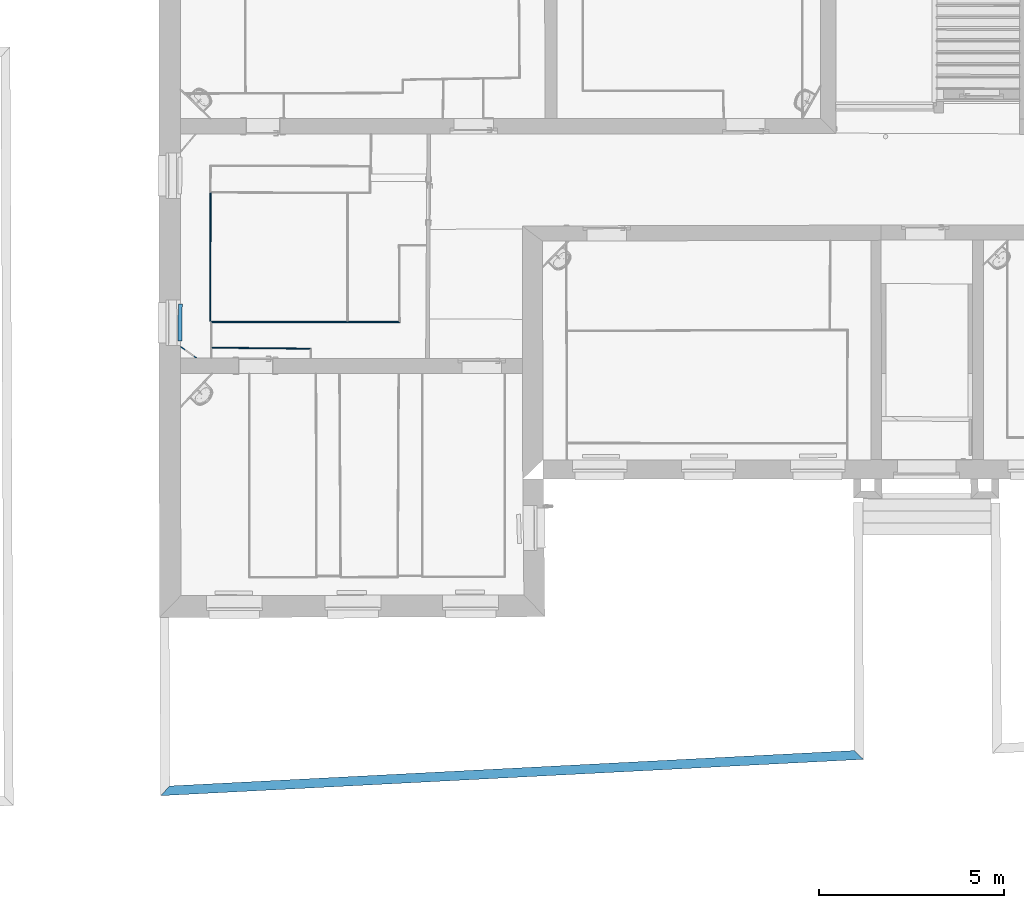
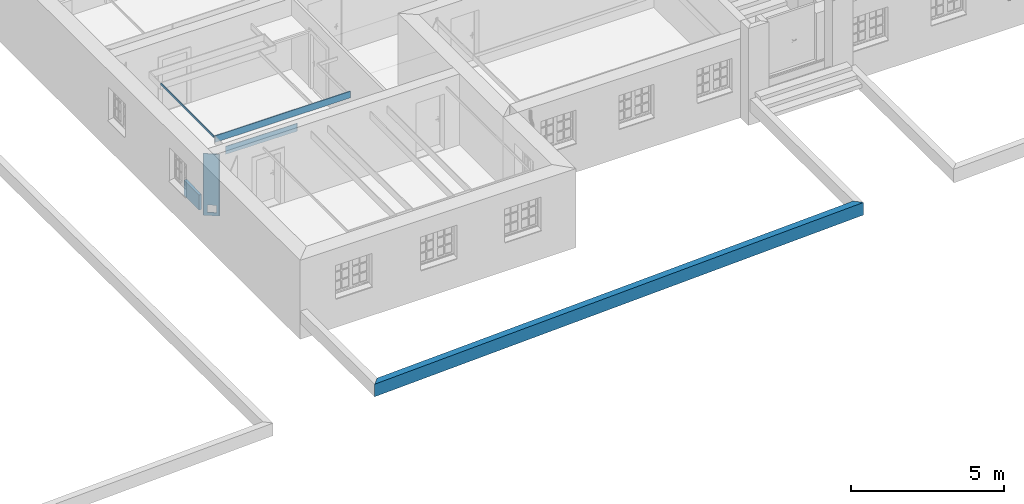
# One storey, part 17 of 196: 6 walls, 1 opening.
"""IFC2X3 building model written with IfcOpenShell, lengths in metres."""

from ifc_helpers import new_model, entity, si_unit, converted_unit, derived_unit, money_unit, direction, frame, origin_with_axes, origin_2d_with_axis, place, context, subcontext, project, spatial, polyline, rectangle, outline, extrude, material, layer, layer_set, layer_usage, type_object, element, save


model = new_model("IFC2X3")

# Units and contexts
model_context = context("Model", 3, precision=1e-05, world=origin_with_axes(), true_north=direction((0.0, 1.0)))
body_context = subcontext(model_context, "Body", "Model", "MODEL_VIEW")
ifc_project = project(units=[si_unit("LENGTHUNIT", "METRE"), si_unit("AREAUNIT", "SQUARE_METRE"), si_unit("VOLUMEUNIT", "CUBIC_METRE"), converted_unit("PLANEANGLEUNIT", "DEGREE", entity("IfcPlaneAngleMeasure", 0.0174532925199), si_unit("PLANEANGLEUNIT", "RADIAN"), dimensions=[0, 0, 0, 0, 0, 0, 0]), money_unit("EUR"), converted_unit("TIMEUNIT", "Year", entity("IfcTimeMeasure", 31556926.0), si_unit("TIMEUNIT", "SECOND"), dimensions=[0, 0, 1, 0, 0, 0, 0]), si_unit("MASSUNIT", "GRAM", prefix="KILO"), si_unit("THERMODYNAMICTEMPERATUREUNIT", "DEGREE_CELSIUS"), si_unit("LUMINOUSINTENSITYUNIT", "LUMEN"), si_unit("ENERGYUNIT", "JOULE", prefix="MEGA"), derived_unit("THERMALCONDUCTANCEUNIT", [(si_unit("POWERUNIT", "WATT"), 1), (si_unit("LENGTHUNIT", "METRE"), -1), (si_unit("THERMODYNAMICTEMPERATUREUNIT", "KELVIN"), -1)]), derived_unit("SPECIFICHEATCAPACITYUNIT", [(si_unit("ENERGYUNIT", "JOULE"), 1), (si_unit("MASSUNIT", "GRAM", prefix="KILO"), -1), (si_unit("THERMODYNAMICTEMPERATUREUNIT", "KELVIN"), -1)]), derived_unit("MASSDENSITYUNIT", [(si_unit("MASSUNIT", "GRAM", prefix="KILO"), 1), (si_unit("VOLUMEUNIT", "CUBIC_METRE"), -1)])], contexts=[model_context])

# Site, building, storey
site_placement = place(None, origin_with_axes())
site = spatial("IfcSite", under=ifc_project, at=site_placement, Name="Gelände", CompositionType="ELEMENT")
building_placement = place(site_placement, origin_with_axes())
building = spatial("IfcBuilding", under=site, at=building_placement, Name="Gebäude", CompositionType="ELEMENT")
storey_placement = place(building_placement, frame((0.0, 0.0, -3.0), z_axis=(0.0, 0.0, 1.0), x_axis=(1.0, 0.0, 0.0)))
storey = spatial("IfcBuildingStorey", under=building, at=storey_placement, Name="KELLERGESCHOSS", CompositionType="ELEMENT", Elevation=-3.0)

# Wall
ifc_material_1 = material(Name="05_ALLGEMEIN - TRAGENDE BAUTEILE")
ifc_layer_1 = layer(ifc_material_1, 0.250000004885, ventilated="UNKNOWN")
ifc_layer_set_1 = layer_set([ifc_layer_1], Name="05_ALLGEMEIN - TRAGENDE BAUTEILE 0.25")
ifc_layer_usage_1 = layer_usage(ifc_layer_set_1, "AXIS2", "NEGATIVE", 0.0)
wall_type_1 = type_object("IfcWallType", Name="05_ALLGEMEIN - TRAGENDE BAUTEILE 250", PredefinedType="ELEMENTEDWALL")
wall_1_placement = place(storey_placement, frame((-9.09536451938, 2.36995870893, 0.262), z_axis=(0.0, 0.0, 1.0), x_axis=(-0.998664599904, -0.0516625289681, 0.0)))
element("IfcWallStandardCase", 1, at=wall_1_placement, inside=storey, type_object=wall_type_1, material=ifc_layer_usage_1, Name="Wand-042", ObjectType="ELEMENTEDWALL", context=body_context, shape_type="SweptSolid", body=[
    extrude(outline(polyline([(0.23785191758, -0.25), (18.744827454, -0.25), (19.00705834, 0.0), (0.0, 0.0), (0.23785191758, -0.25)])), origin_with_axes(), (0.0, 0.0, 1.0), 0.5),
])

# Wall, opening
ifc_material_2 = material(Name="43_Gipskarton")
ifc_layer_2 = layer(ifc_material_2, 0.03, ventilated="UNKNOWN")
ifc_layer_set_2 = layer_set([ifc_layer_2], Name="43_Gipskarton 0.03")
ifc_layer_usage_2 = layer_usage(ifc_layer_set_2, "AXIS2", "NEGATIVE", 0.03)
wall_type_2 = type_object("IfcWallType", Name="43_Gipskarton 30", PredefinedType="ELEMENTEDWALL")
wall_2_placement = place(storey_placement, frame((-27.0749924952, 13.2046491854, -0.04), z_axis=(0.0, 0.0, 1.0), x_axis=(-0.814239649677, 0.580528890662, 0.0)))
wall_2 = element("IfcWallStandardCase", 2, at=wall_2_placement, inside=storey, type_object=wall_type_2, material=ifc_layer_usage_2, Name="Wand-035", ObjectType="ELEMENTEDWALL", context=body_context, shape_type="SweptSolid", body=[
    extrude(outline(polyline([(0.0, 0.0), (0.567037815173, 0.0), (0.545606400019, 0.03), (0.0421807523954, 0.03), (0.0, 0.0)])), origin_with_axes(), (0.0, 0.0, 1.0), 2.46),
])
opening_placement = place(wall_2_placement, frame((0.259947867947, 0.0, 0.122676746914), z_axis=(0.0, 0.0, 1.0), x_axis=(1.0, 0.0, 0.0)))
element("IfcOpeningElement", 3, at=opening_placement, cuts=wall_2, Name="Tür-022", context=body_context, shape_type="SweptSolid", body=[
    extrude(rectangle(XDim=0.297564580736, YDim=0.296812, at=origin_2d_with_axis()), frame((0.0, 0.03, 0.148406), z_axis=(0.0, -1.0, 0.0), x_axis=(-1.0, 0.0, 0.0)), (0.0, 0.0, 1.0), 0.09),
])

# Walls
ifc_layer_usage_3 = layer_usage(ifc_layer_set_2, "AXIS2", "NEGATIVE", 0.0)
wall_3_placement = place(storey_placement, frame((-26.713958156, 17.667379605, 2.35), z_axis=(0.0, 0.0, 1.0), x_axis=(-0.000893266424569, -0.999999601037, 0.0)))
element("IfcWallStandardCase", 4, at=wall_3_placement, inside=storey, type_object=wall_type_2, material=ifc_layer_usage_3, Name="Wand-048", ObjectType="ELEMENTEDWALL", context=body_context, shape_type="SweptSolid", body=[
    extrude(outline(polyline([(-6.67489011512e-05, -0.03), (3.47030157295, -0.03), (3.47028020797, 0.0), (0.0, 0.0), (-6.67489011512e-05, -0.03)])), origin_with_axes(), (0.0, 0.0, 1.0), 0.07),
])
ifc_layer_usage_4 = layer_usage(ifc_layer_set_2, "AXIS2", "NEGATIVE", 0.03)
wall_4_placement = place(storey_placement, frame((-21.6402391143, 14.1961813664, 2.16), z_axis=(0.0, 0.0, 1.0), x_axis=(-0.999999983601, 0.000181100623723, 0.0)))
element("IfcWallStandardCase", 5, at=wall_4_placement, inside=storey, type_object=wall_type_2, material=ifc_layer_usage_4, Name="Wand-049", ObjectType="ELEMENTEDWALL", context=body_context, shape_type="SweptSolid", body=[
    extrude(outline(polyline([(0.0, 0.0), (5.08460533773, 0.0), (5.05460089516, 0.03), (-0.0301756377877, 0.03), (0.0, 0.0)])), origin_with_axes(), (0.0, 0.0, 1.0), 0.26),
])
ifc_layer_usage_5 = layer_usage(ifc_layer_set_2, "AXIS2", "NEGATIVE", 0.0)
wall_5_placement = place(storey_placement, frame((-26.7248672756, 13.5035001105, 2.11), z_axis=(0.0, 0.0, 1.0), x_axis=(0.999944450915, -0.0105401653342, 0.0)))
element("IfcWallStandardCase", 6, at=wall_5_placement, inside=storey, type_object=wall_type_2, material=ifc_layer_usage_5, Name="Wand-051", ObjectType="ELEMENTEDWALL", context=body_context, shape_type="SweptSolid", body=[
    extrude(outline(polyline([(0.000315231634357, -0.03), (2.68363193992, -0.03), (2.71237350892, 0.0), (0.0300016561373, 0.0), (0.000315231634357, -0.03)])), origin_with_axes(), (0.0, 0.0, 1.0), 0.31),
])
ifc_material_3 = material(Name="01_ALLGEMEIN - BAUTEIL")
ifc_layer_3 = layer(ifc_material_3, 0.105, ventilated="UNKNOWN")
ifc_layer_set_3 = layer_set([ifc_layer_3], Name="01_ALLGEMEIN - BAUTEIL 0.105")
ifc_layer_usage_6 = layer_usage(ifc_layer_set_3, "AXIS2", "NEGATIVE", 0.105)
wall_type_3 = type_object("IfcWallType", Name="01_ALLGEMEIN - BAUTEIL 105", PredefinedType="ELEMENTEDWALL")
wall_6_placement = place(storey_placement, frame((-27.5041924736, 13.6676175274, 0.0805299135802), z_axis=(0.0, 0.0, 1.0), x_axis=(0.0136940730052, 0.999906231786, 0.0)))
element("IfcWallStandardCase", 7, at=wall_6_placement, inside=storey, type_object=wall_type_3, material=ifc_layer_usage_6, Name="Wand-036", ObjectType="ELEMENTEDWALL", context=body_context, shape_type="SweptSolid", body=[
    extrude(outline(polyline([(0.0, 0.0), (0.993754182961, 0.0), (0.993754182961, 0.105), (0.0, 0.105), (0.0, 0.0)])), origin_with_axes(), (0.0, 0.0, 1.0), 0.597873),
])

save(model, "model.ifc")
